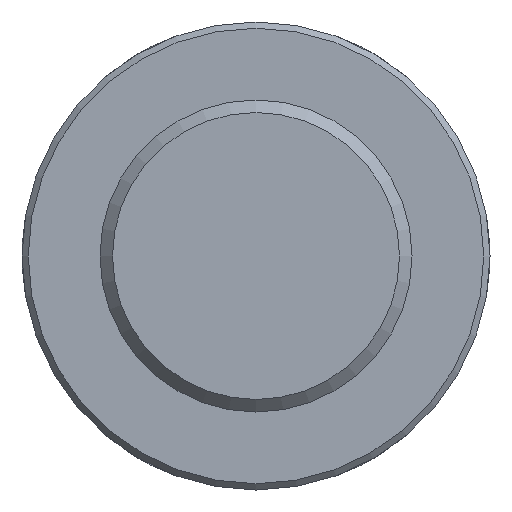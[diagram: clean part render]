
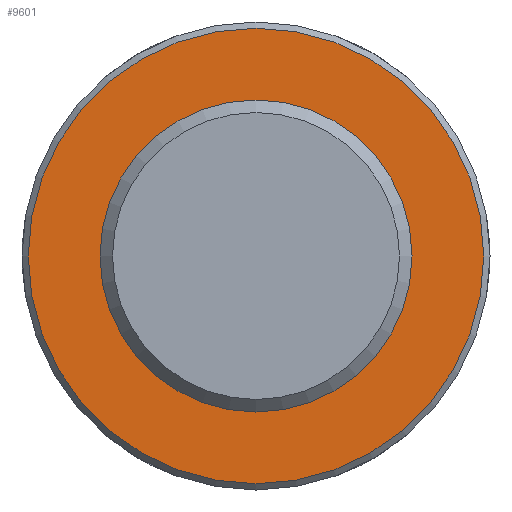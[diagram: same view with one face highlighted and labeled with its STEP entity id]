
A CAD part, front view. The second image highlights one B-rep face of the part: STEP entity #9601.
In plain terms, the highlighted planar face has unit normal (0, -1, 0) as drawn and (0, 1, 0) by its records, which use the part's own axes.
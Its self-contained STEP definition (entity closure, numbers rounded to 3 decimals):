
#73=CIRCLE('',#9949,73.);
#394=PLANE('',#9952);
#913=FACE_OUTER_BOUND('',#1512,.T.);
#1512=EDGE_LOOP('',(#8784));
#4632=VERTEX_POINT('',#17693);
#6020=EDGE_CURVE('',#4632,#4632,#73,.T.);
#8784=ORIENTED_EDGE('',*,*,#6020,.F.);
#9601=ADVANCED_FACE('',(#913),#394,.T.);
#9949=AXIS2_PLACEMENT_3D('',#17694,#11323,#11324);
#9952=AXIS2_PLACEMENT_3D('',#17932,#11329,#11330);
#11323=DIRECTION('center_axis',(0.,-1.,0.));
#11324=DIRECTION('ref_axis',(1.,0.,0.));
#11329=DIRECTION('center_axis',(0.,1.,0.));
#11330=DIRECTION('ref_axis',(0.,0.,1.));
#17693=CARTESIAN_POINT('',(-73.,62.5,0.));
#17694=CARTESIAN_POINT('Origin',(0.,62.5,0.));
#17932=CARTESIAN_POINT('Origin',(0.,62.5,0.));
